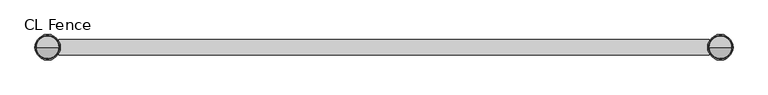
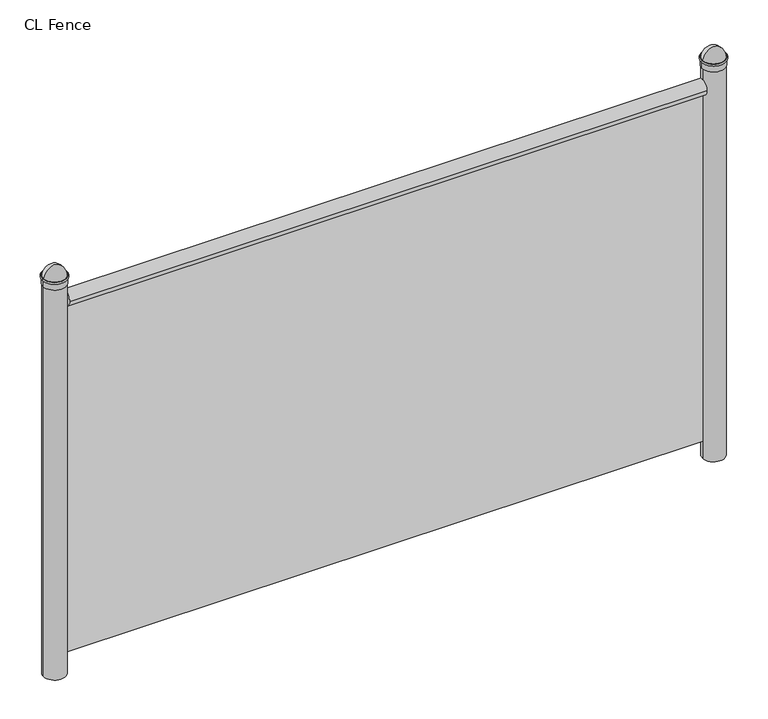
"""IFC4 building model written with IfcOpenShell, lengths in millimetres: geographic element geometry, Alambrado : CL Fence."""

from ifc_helpers import new_model, si_unit, point, frame, frame_2d, origin, place, context, project, spatial, polyline, circle_curve, ellipse_curve, trimmed, segment, composite_curve, outline, extrude, source, transform, mapped, element, save
from ifc_brep_helpers import plane_surface, cylinder_surface, revolved_surface, advanced_brep


def cl_fence_7b1856d6(model_context):
    return source(origin(), model_context, "Body", "SolidModel", [
        advanced_brep(
        [(1779.5068016, 0.0, 1155.5625), (1840.4931984, 0.0, 1155.5625), (1841.75, 0.0, 1155.5625), (1778.25, 0.0, 1155.5625), (1810.0, 0.0, 1186.0556984), (1778.25, 0.0, 1133.3375), (1841.75, 0.0, 1133.3375), (1810.0, 0.0, 1133.3375), (1778.25, 0.0, 1150.8), (1841.75, 0.0, 1150.8)],
        [
            (0, 1, circle_curve(frame((1810.0, 0.0, 1155.5625), z_axis=(0.0, 0.0, -1.0), x_axis=(1.0, 0.0, 0.0)), 30.4931984)),
            (1, 2),
            (2, 3, circle_curve(frame((1810.0, 0.0, 1155.5625), z_axis=(0.0, 0.0, 1.0), x_axis=(1.0, 0.0, 0.0)), 31.75)),
            (3, 0),
            (1, 0, circle_curve(frame((1810.0, 0.0, 1155.5625), z_axis=(0.0, 0.0, -1.0), x_axis=(1.0, 0.0, 0.0)), 30.4931984)),
            (3, 2, circle_curve(frame((1810.0, 0.0, 1155.5625), z_axis=(0.0, 0.0, 1.0), x_axis=(1.0, 0.0, 0.0)), 31.75)),
            (4, 1, circle_curve(frame((1803.1443328, 0.0, 1148.7068328), z_axis=(0.0, 1.0, 0.0), x_axis=(1.0, 0.0, 0.0)), 37.9728578)),
            (0, 4, circle_curve(frame((1816.8556672, 0.0, 1148.7068328), z_axis=(0.0, 1.0, 0.0), x_axis=(-1.0, 0.0, 0.0)), 37.9728578)),
            (5, 6, circle_curve(frame((1810.0, 0.0, 1133.3375), z_axis=(0.0, 0.0, -1.0), x_axis=(1.0, 0.0, 0.0)), 31.75)),
            (6, 7),
            (7, 5),
            (6, 5, circle_curve(frame((1810.0, 0.0, 1133.3375), z_axis=(0.0, 0.0, -1.0), x_axis=(1.0, 0.0, 0.0)), 31.75)),
            (8, 9, circle_curve(frame((1810.0, 0.0, 1150.8), z_axis=(0.0, 0.0, -1.0), x_axis=(1.0, 0.0, 0.0)), 31.75)),
            (9, 6),
            (5, 8),
            (9, 8, circle_curve(frame((1810.0, 0.0, 1150.8), z_axis=(0.0, 0.0, -1.0), x_axis=(1.0, 0.0, 0.0)), 31.75)),
            (2, 9, circle_curve(frame((1841.75, 0.0, 1153.18125), z_axis=(0.0, 1.0, 0.0), x_axis=(1.0, 0.0, 0.0)), 2.38125)),
            (8, 3, circle_curve(frame((1778.25, 0.0, 1153.18125), z_axis=(0.0, 1.0, 0.0), x_axis=(-1.0, 0.0, 0.0)), 2.38125)),
        ],
        [
            plane_surface(frame((1810.0, 0.0, 1155.5625), z_axis=(0.0, 0.0, 1.0), x_axis=(1.0, 0.0, 0.0))),
            revolved_surface(trimmed(ellipse_curve(frame((1803.1443328, 0.0, 1148.7068328), z_axis=(0.0, -1.0, 0.0), x_axis=(1.0, 0.0, 0.0)), 37.9728578, 37.9728578), [point((1840.4931984, 0.0, 1155.5625))], [point((1810.0, 0.0, 1186.0556984))], True, "CARTESIAN"), (1810.0, 0.0, 1212.7125), (0.0, 0.0, 1.0)),
            plane_surface(frame((1810.0, 0.0, 1133.3375), z_axis=(0.0, 0.0, -1.0), x_axis=(1.0, 0.0, 0.0))),
            cylinder_surface(frame((1810.0, 0.0, 1212.7125), z_axis=(0.0, 0.0, 1.0), x_axis=(1.0, 0.0, 0.0)), 31.75),
            revolved_surface(trimmed(ellipse_curve(frame((1841.75, 0.0, 1153.18125), z_axis=(0.0, -1.0, 0.0), x_axis=(1.0, 0.0, 0.0)), 2.38125, 2.38125), [point((1841.75, 0.0, 1150.8))], [point((1841.75, 0.0, 1155.5625))], True, "CARTESIAN"), (1810.0, 0.0, 1212.7125), (0.0, 0.0, 1.0)),
        ],
        [
            (0, [[1, 2, 3, 4]]),
            (0, [[5, -4, 6, -2]]),
            (1, [[7, -1, 8]]),
            (1, [[-8, -5, -7]]),
            (2, [[9, 10, 11]]),
            (2, [[12, -11, -10]]),
            (3, [[13, 14, -9, 15]]),
            (3, [[16, -15, -12, -14]]),
            (4, [[-3, 17, -13, 18]]),
            (4, [[-6, -18, -16, -17]]),
        ],
    ),
        advanced_brep(
        [(1810.0, 0.0, 1150.8), (1840.1625, 0.0, 1150.8), (1779.8375, 0.0, 1150.8), (1779.8375, 0.0, 0.0), (1840.1625, 0.0, 0.0), (1810.0, 0.0, 0.0)],
        [
            (0, 1),
            (1, 2, circle_curve(frame((1810.0, 0.0, 1150.8), z_axis=(0.0, 0.0, 1.0), x_axis=(1.0, 0.0, 0.0)), 30.1625)),
            (2, 0),
            (2, 1, circle_curve(frame((1810.0, 0.0, 1150.8), z_axis=(0.0, 0.0, 1.0), x_axis=(1.0, 0.0, 0.0)), 30.1625)),
            (3, 4, circle_curve(frame((1810.0, 0.0, 0.0), z_axis=(0.0, 0.0, -1.0), x_axis=(1.0, 0.0, 0.0)), 30.1625)),
            (4, 5),
            (5, 3),
            (4, 3, circle_curve(frame((1810.0, 0.0, 0.0), z_axis=(0.0, 0.0, -1.0), x_axis=(1.0, 0.0, 0.0)), 30.1625)),
            (1, 4),
            (3, 2),
        ],
        [
            plane_surface(frame((1810.0, 0.0, 1150.8), z_axis=(0.0, 0.0, 1.0), x_axis=(1.0, 0.0, 0.0))),
            plane_surface(frame((1810.0, 0.0, 0.0), z_axis=(0.0, 0.0, -1.0), x_axis=(1.0, 0.0, 0.0))),
            cylinder_surface(frame((1810.0, 0.0, 1201.6), z_axis=(0.0, 0.0, 1.0), x_axis=(1.0, 0.0, 0.0)), 30.1625),
        ],
        [
            (0, [[1, 2, 3]]),
            (0, [[-3, 4, -1]]),
            (1, [[5, 6, 7]]),
            (1, [[8, -7, -6]]),
            (2, [[-2, 9, -5, 10]]),
            (2, [[-4, -10, -8, -9]]),
        ],
    ),
        advanced_brep(
        [(-30.4931984, 0.0, 1155.5625), (30.4931984, 0.0, 1155.5625), (31.75, 0.0, 1155.5625), (-31.75, 0.0, 1155.5625), (0.0, 0.0, 1186.0556984), (-31.75, 0.0, 1133.3375), (31.75, 0.0, 1133.3375), (0.0, 0.0, 1133.3375), (-31.75, 0.0, 1150.8), (31.75, 0.0, 1150.8)],
        [
            (0, 1, circle_curve(frame((0.0, 0.0, 1155.5625), z_axis=(0.0, 0.0, -1.0), x_axis=(1.0, 0.0, 0.0)), 30.4931984)),
            (1, 2),
            (2, 3, circle_curve(frame((0.0, 0.0, 1155.5625), z_axis=(0.0, 0.0, 1.0), x_axis=(1.0, 0.0, 0.0)), 31.75)),
            (3, 0),
            (1, 0, circle_curve(frame((0.0, 0.0, 1155.5625), z_axis=(0.0, 0.0, -1.0), x_axis=(1.0, 0.0, 0.0)), 30.4931984)),
            (3, 2, circle_curve(frame((0.0, 0.0, 1155.5625), z_axis=(0.0, 0.0, 1.0), x_axis=(1.0, 0.0, 0.0)), 31.75)),
            (4, 1, circle_curve(frame((-6.8556672, 0.0, 1148.7068328), z_axis=(0.0, 1.0, 0.0), x_axis=(1.0, 0.0, 0.0)), 37.9728578)),
            (0, 4, circle_curve(frame((6.8556672, 0.0, 1148.7068328), z_axis=(0.0, 1.0, 0.0), x_axis=(-1.0, 0.0, 0.0)), 37.9728578)),
            (5, 6, circle_curve(frame((0.0, 0.0, 1133.3375), z_axis=(0.0, 0.0, -1.0), x_axis=(1.0, 0.0, 0.0)), 31.75)),
            (6, 7),
            (7, 5),
            (6, 5, circle_curve(frame((0.0, 0.0, 1133.3375), z_axis=(0.0, 0.0, -1.0), x_axis=(1.0, 0.0, 0.0)), 31.75)),
            (8, 9, circle_curve(frame((0.0, 0.0, 1150.8), z_axis=(0.0, 0.0, -1.0), x_axis=(1.0, 0.0, 0.0)), 31.75)),
            (9, 6),
            (5, 8),
            (9, 8, circle_curve(frame((0.0, 0.0, 1150.8), z_axis=(0.0, 0.0, -1.0), x_axis=(1.0, 0.0, 0.0)), 31.75)),
            (2, 9, circle_curve(frame((31.75, 0.0, 1153.18125), z_axis=(0.0, 1.0, 0.0), x_axis=(1.0, 0.0, 0.0)), 2.38125)),
            (8, 3, circle_curve(frame((-31.75, 0.0, 1153.18125), z_axis=(0.0, 1.0, 0.0), x_axis=(-1.0, 0.0, 0.0)), 2.38125)),
        ],
        [
            plane_surface(frame((0.0, 0.0, 1155.5625), z_axis=(0.0, 0.0, 1.0), x_axis=(1.0, 0.0, 0.0))),
            revolved_surface(trimmed(ellipse_curve(frame((-6.8556672, 0.0, 1148.7068328), z_axis=(0.0, -1.0, 0.0), x_axis=(1.0, 0.0, 0.0)), 37.9728578, 37.9728578), [point((30.4931984, 0.0, 1155.5625))], [point((0.0, 0.0, 1186.0556984))], True, "CARTESIAN"), (0.0, 0.0, 1212.7125), (0.0, 0.0, 1.0)),
            plane_surface(frame((0.0, 0.0, 1133.3375), z_axis=(0.0, 0.0, -1.0), x_axis=(1.0, 0.0, 0.0))),
            cylinder_surface(frame((0.0, 0.0, 1212.7125), z_axis=(0.0, 0.0, 1.0), x_axis=(1.0, 0.0, 0.0)), 31.75),
            revolved_surface(trimmed(ellipse_curve(frame((31.75, 0.0, 1153.18125), z_axis=(0.0, -1.0, 0.0), x_axis=(1.0, 0.0, 0.0)), 2.38125, 2.38125), [point((31.75, 0.0, 1150.8))], [point((31.75, 0.0, 1155.5625))], True, "CARTESIAN"), (0.0, 0.0, 1212.7125), (0.0, 0.0, 1.0)),
        ],
        [
            (0, [[1, 2, 3, 4]]),
            (0, [[5, -4, 6, -2]]),
            (1, [[7, -1, 8]]),
            (1, [[-8, -5, -7]]),
            (2, [[9, 10, 11]]),
            (2, [[12, -11, -10]]),
            (3, [[13, 14, -9, 15]]),
            (3, [[16, -15, -12, -14]]),
            (4, [[-3, 17, -13, 18]]),
            (4, [[-6, -18, -16, -17]]),
        ],
    ),
        advanced_brep(
        [(0.0, 0.0, 1150.8), (30.1625, 0.0, 1150.8), (-30.1625, 0.0, 1150.8), (-30.1625, 0.0, 0.0), (30.1625, 0.0, 0.0), (0.0, 0.0, 0.0)],
        [
            (0, 1),
            (1, 2, circle_curve(frame((0.0, 0.0, 1150.8), z_axis=(0.0, 0.0, 1.0), x_axis=(1.0, 0.0, 0.0)), 30.1625)),
            (2, 0),
            (2, 1, circle_curve(frame((0.0, 0.0, 1150.8), z_axis=(0.0, 0.0, 1.0), x_axis=(1.0, 0.0, 0.0)), 30.1625)),
            (3, 4, circle_curve(frame((0.0, 0.0, 0.0), z_axis=(0.0, 0.0, -1.0), x_axis=(1.0, 0.0, 0.0)), 30.1625)),
            (4, 5),
            (5, 3),
            (4, 3, circle_curve(frame((0.0, 0.0, 0.0), z_axis=(0.0, 0.0, -1.0), x_axis=(1.0, 0.0, 0.0)), 30.1625)),
            (1, 4),
            (3, 2),
        ],
        [
            plane_surface(frame((0.0, 0.0, 1150.8), z_axis=(0.0, 0.0, 1.0), x_axis=(1.0, 0.0, 0.0))),
            plane_surface(frame((0.0, 0.0, 0.0), z_axis=(0.0, 0.0, -1.0), x_axis=(1.0, 0.0, 0.0))),
            cylinder_surface(frame((0.0, 0.0, 1201.6), z_axis=(0.0, 0.0, 1.0), x_axis=(1.0, 0.0, 0.0)), 30.1625),
        ],
        [
            (0, [[1, 2, 3]]),
            (0, [[-3, 4, -1]]),
            (1, [[5, 6, 7]]),
            (1, [[8, -7, -6]]),
            (2, [[-2, 9, -5, 10]]),
            (2, [[-4, -10, -8, -9]]),
        ],
    ),
        extrude(outline(composite_curve([segment(trimmed(circle_curve(frame_2d((0.0, 1079.3625)), 20.6375), [point((-20.6375, 1079.3625))], [point((20.6375, 1079.3625))], False, "CARTESIAN"), True, "CONTINUOUS"), segment(trimmed(circle_curve(frame_2d((0.0, 1079.3625)), 20.6375), [point((20.6375, 1079.3625))], [point((-20.6375, 1079.3625))], False, "CARTESIAN"), True, "CONTINUOUS")], self_intersect=False)), frame((30.1625, 0.0, 0.0), z_axis=(1.0, 0.0, 0.0), x_axis=(0.0, 1.0, 0.0)), (0.0, 0.0, 1.0), 1749.675),
        extrude(outline(polyline([(1779.8375, 1.5875), (1779.8375, -1.5875), (30.1625, -1.5875), (30.1625, 1.5875), (1779.8375, 1.5875)])), frame((0.0, 0.0, 50.8), z_axis=(0.0, 0.0, 1.0), x_axis=(1.0, 0.0, 0.0)), (0.0, 0.0, 1.0), 1028.5625),
    ])


if __name__ == "__main__":
    model = new_model("IFC4")
    model_context = context("Model", 3, world=origin())
    ifc_project = project(units=[si_unit("LENGTHUNIT", "METRE", prefix="MILLI")], contexts=[model_context])
    site = spatial("IfcSite", under=ifc_project)
    building = spatial("IfcBuilding", under=site)
    placement = place(None, origin())
    cl_fence_shape = cl_fence_7b1856d6(model_context)
    element("IfcGeographicElement", 1, ObjectType="Alambrado : CL Fence", at=placement, inside=building, context=model_context, shape_type="MappedRepresentation", body=[
        mapped(cl_fence_shape, transform((0.0, 0.0, 0.0), x_axis=(1.0, 0.0, 0.0), y_axis=(0.0, 1.0, 0.0), z_axis=(0.0, 0.0, 1.0))),
    ])
    save(model, "model.ifc")
